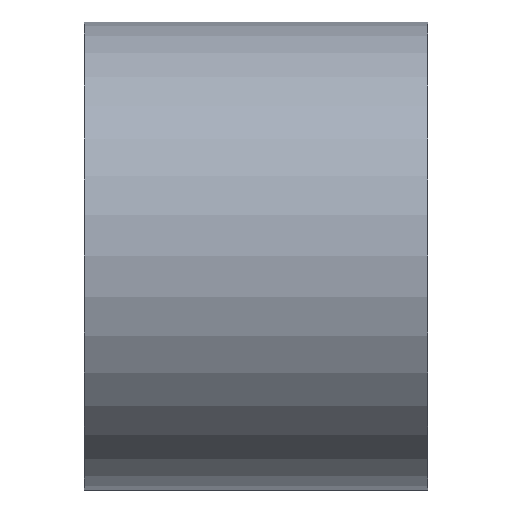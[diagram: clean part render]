
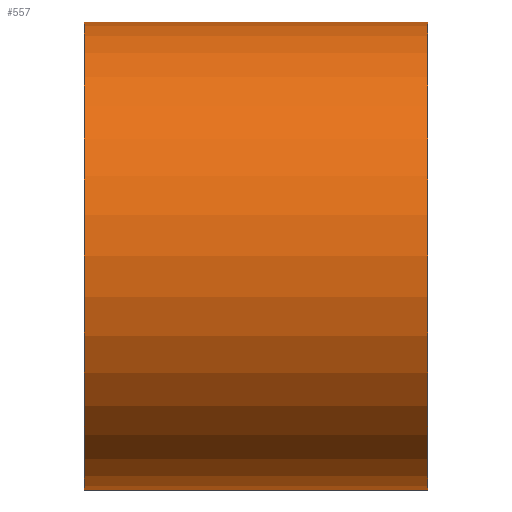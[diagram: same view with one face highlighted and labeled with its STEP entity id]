
A CAD part, left-side view. The second image highlights one B-rep face of the part: STEP entity #557.
In plain terms, the highlighted cylindrical face has radius 37.5 mm (diameter 75 mm), a partial arc.
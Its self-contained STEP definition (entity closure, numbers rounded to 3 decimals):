
#15 = DIRECTION ( 'NONE',  ( 0., 0., 1. ) ) ;
#45 = ORIENTED_EDGE ( 'NONE', *, *, #348, .T. ) ;
#47 = DIRECTION ( 'NONE',  ( 0., 1., 0. ) ) ;
#69 = LINE ( 'NONE', #513, #596 ) ;
#90 = CARTESIAN_POINT ( 'NONE',  ( 0., 27.5, -37.5 ) ) ;
#98 = CARTESIAN_POINT ( 'NONE',  ( 0., -27.5, -37.5 ) ) ;
#101 = AXIS2_PLACEMENT_3D ( 'NONE', #752, #758, #764 ) ;
#108 = AXIS2_PLACEMENT_3D ( 'NONE', #693, #47, #683 ) ;
#127 = VERTEX_POINT ( 'NONE', #90 ) ;
#188 = EDGE_CURVE ( 'NONE', #127, #469, #768, .T. ) ;
#208 = CIRCLE ( 'NONE', #822, 37.5 ) ;
#238 = CARTESIAN_POINT ( 'NONE',  ( 0., 0., -37.5 ) ) ;
#243 = DIRECTION ( 'NONE',  ( 0., 1., 0. ) ) ;
#255 = FACE_OUTER_BOUND ( 'NONE', #473, .T. ) ;
#283 = EDGE_CURVE ( 'NONE', #786, #127, #911, .T. ) ;
#345 = ORIENTED_EDGE ( 'NONE', *, *, #188, .F. ) ;
#348 = EDGE_CURVE ( 'NONE', #622, #469, #69, .T. ) ;
#351 = CARTESIAN_POINT ( 'NONE',  ( 0., -27.5, 0. ) ) ;
#366 = CARTESIAN_POINT ( 'NONE',  ( 0., 27.5, 37.5 ) ) ;
#392 = EDGE_CURVE ( 'NONE', #786, #622, #208, .T. ) ;
#412 = CARTESIAN_POINT ( 'NONE',  ( 0., -27.5, 37.5 ) ) ;
#469 = VERTEX_POINT ( 'NONE', #366 ) ;
#473 = EDGE_LOOP ( 'NONE', ( #906, #900, #45, #345 ) ) ;
#513 = CARTESIAN_POINT ( 'NONE',  ( 0., 0., 37.5 ) ) ;
#557 = ADVANCED_FACE ( 'NONE', ( #255 ), #857, .T. ) ;
#574 = DIRECTION ( 'NONE',  ( 0., 1., 0. ) ) ;
#596 = VECTOR ( 'NONE', #636, 1000. ) ;
#622 = VERTEX_POINT ( 'NONE', #412 ) ;
#636 = DIRECTION ( 'NONE',  ( 0., 1., 0. ) ) ;
#683 = DIRECTION ( 'NONE',  ( 0., 0., 1. ) ) ;
#693 = CARTESIAN_POINT ( 'NONE',  ( 0., 0., 0. ) ) ;
#750 = VECTOR ( 'NONE', #243, 1000. ) ;
#752 = CARTESIAN_POINT ( 'NONE',  ( 0., 27.5, 0. ) ) ;
#758 = DIRECTION ( 'NONE',  ( 0., 1., 0. ) ) ;
#764 = DIRECTION ( 'NONE',  ( 0., 0., 1. ) ) ;
#768 = CIRCLE ( 'NONE', #101, 37.5 ) ;
#786 = VERTEX_POINT ( 'NONE', #98 ) ;
#822 = AXIS2_PLACEMENT_3D ( 'NONE', #351, #574, #15 ) ;
#857 = CYLINDRICAL_SURFACE ( 'NONE', #108, 37.5 ) ;
#900 = ORIENTED_EDGE ( 'NONE', *, *, #392, .T. ) ;
#906 = ORIENTED_EDGE ( 'NONE', *, *, #283, .F. ) ;
#911 = LINE ( 'NONE', #238, #750 ) ;
